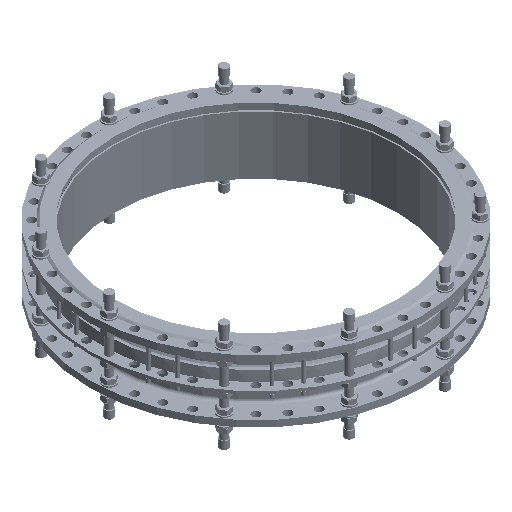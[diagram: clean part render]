
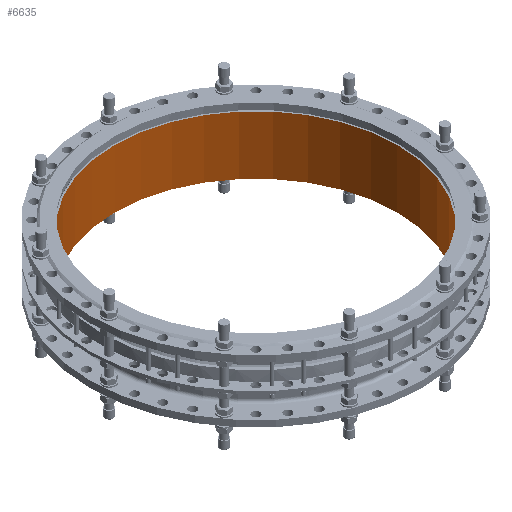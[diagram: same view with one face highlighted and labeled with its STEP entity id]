
A CAD part, isometric view. The second image highlights one B-rep face of the part: STEP entity #6635.
In plain terms, the highlighted cylindrical face has radius 900 mm (diameter 1800 mm), a full revolution.
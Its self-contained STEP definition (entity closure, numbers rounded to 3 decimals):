
#6635=ADVANCED_FACE('',(#7393,#7395),#7397,.F.);
#7393=FACE_OUTER_BOUND('',#7394,.T.);
#7394=EDGE_LOOP('',(#10778));
#7395=FACE_OUTER_BOUND('',#7396,.T.);
#7396=EDGE_LOOP('',(#10779));
#7397=CYLINDRICAL_SURFACE('',#7398,900.);
#7398=AXIS2_PLACEMENT_3D('',#7399,#7400,#7401);
#7399=CARTESIAN_POINT('',(0.,0.,0.));
#7400=DIRECTION('',(0.,0.,1.));
#7401=DIRECTION('',(-1.,0.,0.));
#10778=ORIENTED_EDGE('',*,*,#12837,.F.);
#10779=ORIENTED_EDGE('',*,*,#12838,.F.);
#12837=EDGE_CURVE('',#13782,#13782,#13783,.T.);
#12838=EDGE_CURVE('',#13784,#13784,#13785,.T.);
#13782=VERTEX_POINT('',#15487);
#13783=CIRCLE('',#15488,900.);
#13784=VERTEX_POINT('',#15492);
#13785=CIRCLE('',#15493,900.);
#15487=CARTESIAN_POINT('',(-900.,0.,372.));
#15488=AXIS2_PLACEMENT_3D('',#15489,#15490,#15491);
#15489=CARTESIAN_POINT('',(0.,0.,372.));
#15490=DIRECTION('',(0.,0.,-1.));
#15491=DIRECTION('',(-1.,0.,0.));
#15492=CARTESIAN_POINT('',(-900.,0.,0.));
#15493=AXIS2_PLACEMENT_3D('',#15494,#15495,#15496);
#15494=CARTESIAN_POINT('',(0.,0.,0.));
#15495=DIRECTION('',(0.,0.,1.));
#15496=DIRECTION('',(-1.,0.,0.));
